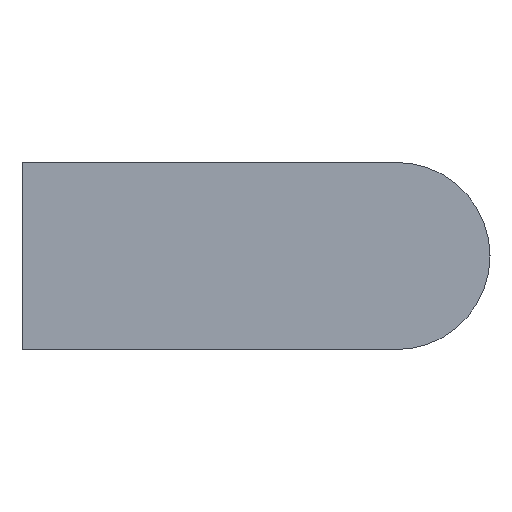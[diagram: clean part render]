
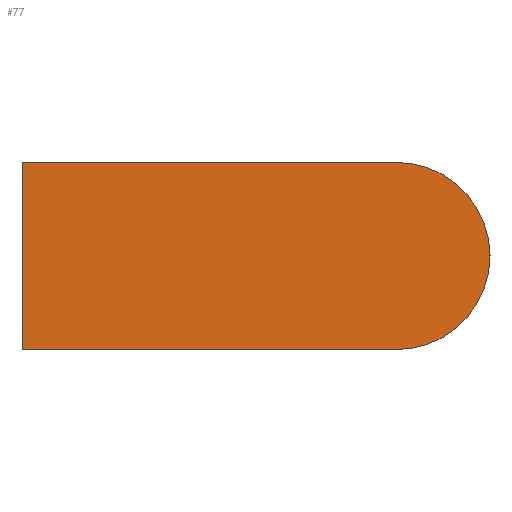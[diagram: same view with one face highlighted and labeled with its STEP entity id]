
A CAD part, left-side view. The second image highlights one B-rep face of the part: STEP entity #77.
In plain terms, the highlighted planar face has unit normal (-1, 0, 0).
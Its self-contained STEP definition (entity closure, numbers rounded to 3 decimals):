
#77 = ADVANCED_FACE( '', ( #157 ), #158, .F. );
#157 = FACE_OUTER_BOUND( '', #234, .T. );
#158 = PLANE( '', #235 );
#234 = EDGE_LOOP( '', ( #374, #375, #376, #377 ) );
#235 = AXIS2_PLACEMENT_3D( '', #378, #379, #380 );
#374 = ORIENTED_EDGE( '', *, *, #415, .F. );
#375 = ORIENTED_EDGE( '', *, *, #434, .F. );
#376 = ORIENTED_EDGE( '', *, *, #452, .F. );
#377 = ORIENTED_EDGE( '', *, *, #463, .F. );
#378 = CARTESIAN_POINT( '', ( -6., -28., 0. ) );
#379 = DIRECTION( '', ( 1., 0., 0. ) );
#380 = DIRECTION( '', ( 0., 0., -1. ) );
#415 = EDGE_CURVE( '', #476, #477, #478, .T. );
#434 = EDGE_CURVE( '', #508, #476, #509, .T. );
#452 = EDGE_CURVE( '', #533, #508, #534, .T. );
#463 = EDGE_CURVE( '', #477, #533, #548, .T. );
#476 = VERTEX_POINT( '', #561 );
#477 = VERTEX_POINT( '', #562 );
#478 = LINE( '', #563, #564 );
#508 = VERTEX_POINT( '', #603 );
#509 = LINE( '', #604, #605 );
#533 = VERTEX_POINT( '', #638 );
#534 = LINE( '', #639, #640 );
#548 = CIRCLE( '', #657, 7. );
#561 = CARTESIAN_POINT( '', ( -6., 0., 7. ) );
#562 = CARTESIAN_POINT( '', ( -6., -28., 7. ) );
#563 = CARTESIAN_POINT( '', ( -6., 0., 7. ) );
#564 = VECTOR( '', #670, 1000. );
#603 = CARTESIAN_POINT( '', ( -6., 0., -7. ) );
#604 = CARTESIAN_POINT( '', ( -6., 0., -7. ) );
#605 = VECTOR( '', #692, 1000. );
#638 = CARTESIAN_POINT( '', ( -6., -28., -7. ) );
#639 = CARTESIAN_POINT( '', ( -6., -28., -7. ) );
#640 = VECTOR( '', #711, 1000. );
#657 = AXIS2_PLACEMENT_3D( '', #721, #722, #723 );
#670 = DIRECTION( '', ( 0., -1., 0. ) );
#692 = DIRECTION( '', ( 0., 0., 1. ) );
#711 = DIRECTION( '', ( 0., 1., 0. ) );
#721 = CARTESIAN_POINT( '', ( -6., -28., 0. ) );
#722 = DIRECTION( '', ( 1., 0., 0. ) );
#723 = DIRECTION( '', ( 0., 0., -1. ) );
